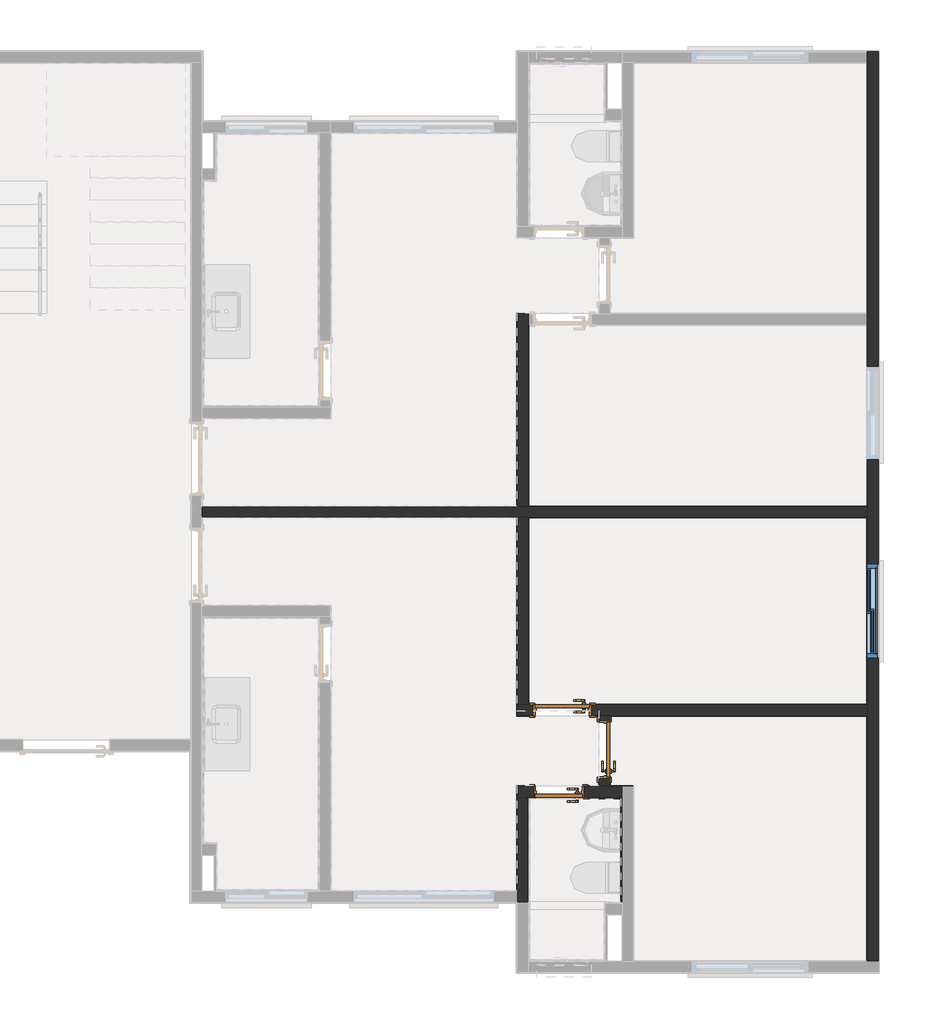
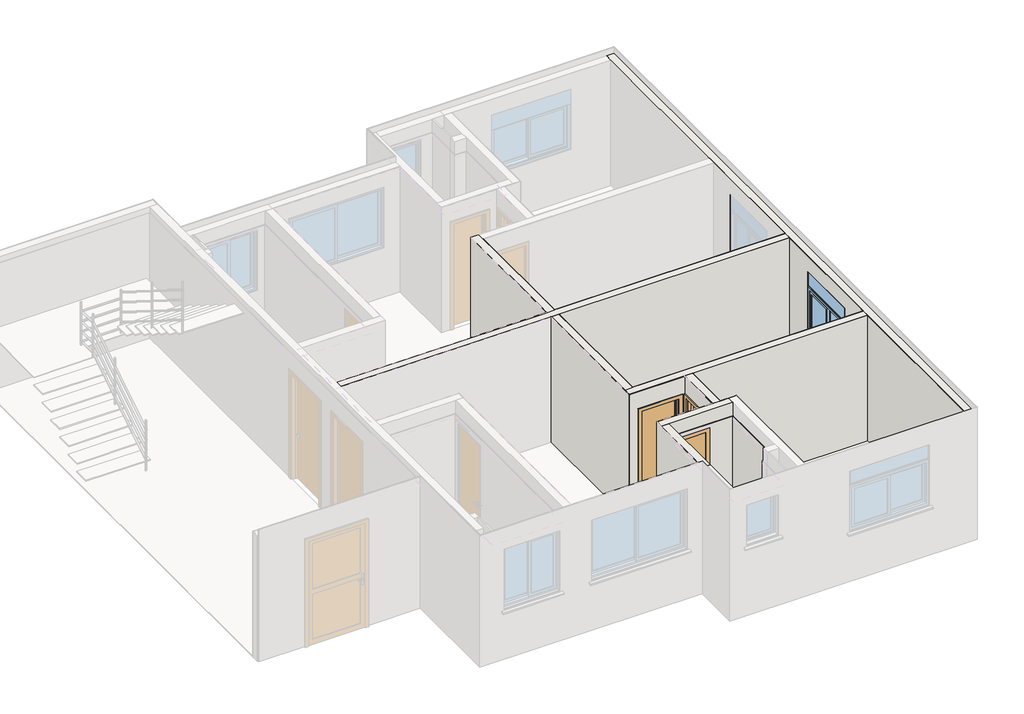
# One storey, part 8 of 11: 26 walls, 3 doors, 1 window.
"""IFC4 building model written with IfcOpenShell, lengths in millimetres."""

from ifc_helpers import new_model, si_unit, frame, origin, origin_with_axes, place, context, project, spatial, polyline, outline, extrude, faceted_brep, transform, mapped, element, save
from components import porta_de_madeira_interna_60_x_210_porta_de_madeira_interna_6d4bee1b, porta_de_madeira_interna_70_x_210_porta_de_madeira_interna_f307109d, window_120x120_8f0dd2b5

model = new_model("IFC4")

# Units and contexts
model_context = context("Model", 3, world=origin())
ifc_project = project(units=[si_unit("LENGTHUNIT", "METRE", prefix="MILLI")], contexts=[model_context])

# Site, building, storey
site = spatial("IfcSite", under=ifc_project)
building = spatial("IfcBuilding", under=site)
storey = spatial("IfcBuildingStorey", under=building, Name="Térreo", Elevation=0.0)

# Doors
placement = place(None, origin())
porta_de_madeira_interna_60_x_210_porta_de_madeira_interna_shape = porta_de_madeira_interna_60_x_210_porta_de_madeira_interna_6d4bee1b(model_context)
element("IfcDoor", 1, ObjectType="Porta de Madeira Interna 60 x 210 : Porta de Madeira Interna 60 x 210", at=placement, inside=storey, context=model_context, shape_type="MappedRepresentation", body=[
    mapped(porta_de_madeira_interna_60_x_210_porta_de_madeira_interna_shape, transform((16681.9956991, 2796.8217615, 0.0), x_axis=(-1.0, 0.0, 0.0), y_axis=(0.0, -1.0, 0.0), z_axis=(0.0, 0.0, 1.0))),
])
porta_de_madeira_interna_70_x_210_porta_de_madeira_interna_shape = porta_de_madeira_interna_70_x_210_porta_de_madeira_interna_f307109d(model_context)
element("IfcDoor", 2, ObjectType="Porta de Madeira Interna 70 x 210 : Porta de Madeira Interna 70 x 210", at=placement, inside=storey, context=model_context, shape_type="MappedRepresentation", body=[
    mapped(porta_de_madeira_interna_70_x_210_porta_de_madeira_interna_shape, transform((17273.1716432, 3342.9958256, 0.0), x_axis=(0.0, 1.0, 0.0), y_axis=(-1.0, 0.0, 0.0), z_axis=(0.0, 0.0, 1.0))),
])
element("IfcDoor", 3, ObjectType="Porta de Madeira Interna 70 x 210 : Porta de Madeira Interna 70 x 210", at=placement, inside=storey, context=model_context, shape_type="MappedRepresentation", body=[
    mapped(porta_de_madeira_interna_70_x_210_porta_de_madeira_interna_shape, transform((16726.9947994, 3853.1701411, 0.0), x_axis=(-1.0, 0.0, 0.0), y_axis=(0.0, -1.0, 0.0), z_axis=(0.0, 0.0, 1.0))),
])

# Walls
element("IfcWall", 4, ObjectType="Alvenaria Estrutural", at=placement, inside=storey, context=model_context, shape_type="Brep", body=[
    faceted_brep([(20649.9955249, 12319.9951043, 0.0), (20649.9955249, 12180.0252435, 0.0), (20649.9955249, 8956.0244803, 0.0), (20649.9955249, 8950.0244803, 0.0), (20649.9955249, 8810.0244803, 0.0), (20649.9955249, 8804.0244803, 0.0), (20649.9955249, 6476.0103139, 0.0), (20649.9955249, 6470.0103139, 0.0), (20649.9955249, 6330.0103139, 0.0), (20649.9955249, 6324.0103139, 0.0), (20649.9955249, 3925.9951411, 0.0), (20649.9955249, 3919.9951411, 0.0), (20649.9955249, 3779.9951411, 0.0), (20649.9955249, 3773.9951411, 0.0), (20649.9955249, 619.9952456, 0.0), (20649.9955249, 619.9952456, 2510.0), (20649.9955249, 3773.9951411, 2510.0), (20649.9955249, 3779.9951411, 2510.0), (20649.9955249, 3919.9951411, 2510.0), (20649.9955249, 3925.9951411, 2510.0), (20649.9955249, 6324.0103139, 2510.0), (20649.9955249, 6330.0103139, 2510.0), (20649.9955249, 6470.0103139, 2510.0), (20649.9955249, 6476.0103139, 2510.0), (20649.9955249, 8804.0244803, 2510.0), (20649.9955249, 8810.0244803, 2510.0), (20649.9955249, 8950.0244803, 2510.0), (20649.9955249, 8956.0244803, 2510.0), (20649.9955249, 12180.0252435, 2510.0), (20649.9955249, 12319.9951043, 2510.0), (20649.9955249, 5725.0101878, 1000.0), (20649.9955249, 5725.0101878, 2200.0), (20649.9955249, 4525.0101878, 2200.0), (20649.9955249, 4525.0101878, 1000.0), (20649.9955249, 7075.01044, 2200.0), (20649.9955249, 7075.01044, 1000.0), (20649.9955249, 8275.01044, 1000.0), (20649.9955249, 8275.01044, 2200.0), (20789.9955249, 619.9952456, 0.0), (20789.9955249, 12319.9951043, 0.0), (20789.9955249, 12319.9951043, 2510.0), (20789.9955249, 619.9952456, 2510.0), (20789.9955249, 5725.0101878, 2200.0), (20789.9955249, 5725.0101878, 1000.0), (20789.9955249, 5775.0101878, 1000.0), (20789.9955249, 5775.0101878, 951.3083694), (20789.9955249, 4475.0101878, 951.3083694), (20789.9955249, 4475.0101878, 1000.0), (20789.9955249, 4525.0101878, 1000.0), (20789.9955249, 4525.0101878, 2200.0), (20789.9955249, 7025.01044, 951.3083694), (20789.9955249, 7025.01044, 1000.0), (20789.9955249, 7075.01044, 1000.0), (20789.9955249, 7075.01044, 2200.0), (20789.9955249, 8275.01044, 2200.0), (20789.9955249, 8275.01044, 1000.0), (20789.9955249, 8325.01044, 1000.0), (20789.9955249, 8325.01044, 951.3083694), (20692.4955249, 5725.0101878, 1000.0), (20692.4955249, 4525.0101878, 1000.0), (20692.4955249, 7075.01044, 1000.0), (20692.4955249, 8275.01044, 1000.0), (20692.4955249, 4475.0101878, 972.0326341), (20692.4955249, 4475.0101878, 1000.0), (20692.4955249, 5775.0101878, 1000.0), (20692.4955249, 5775.0101878, 972.0326341), (20692.4955249, 7025.01044, 972.0326341), (20692.4955249, 7025.01044, 1000.0), (20692.4955249, 8325.01044, 1000.0), (20692.4955249, 8325.01044, 972.0326341)], [[[0, 1, 2, 3, 4, 5, 6, 7, 8, 9, 10, 11, 12, 13, 14, 15, 16, 17, 18, 19, 20, 21, 22, 23, 24, 25, 26, 27, 28, 29], [30, 31, 32, 33], [34, 35, 36, 37]], [[38, 39, 40, 41], [42, 43, 44, 45, 46, 47, 48, 49], [50, 51, 52, 53, 54, 55, 56, 57]], [[31, 30, 58, 43, 42]], [[32, 31, 42, 49]], [[33, 32, 49, 48, 59]], [[30, 33, 59, 58]], [[35, 34, 53, 52, 60]], [[34, 37, 54, 53]], [[37, 36, 61, 55, 54]], [[36, 35, 60, 61]], [[1, 0, 39, 38, 14, 13, 12, 11, 10, 9, 8, 7, 6, 5, 4, 3, 2]], [[15, 14, 38, 41]], [[16, 15, 41, 40, 29, 28, 27, 26, 25, 24, 23, 22, 21, 20, 19, 18, 17]], [[0, 29, 40, 39]], [[47, 46, 62, 63]], [[45, 44, 64, 65]], [[58, 59, 63, 62, 65, 64]], [[48, 47, 63, 59]], [[46, 45, 65, 62]], [[51, 50, 66, 67]], [[57, 56, 68, 69]], [[61, 60, 67, 66, 69, 68]], [[52, 51, 67, 60]], [[50, 57, 69, 66]], [[56, 55, 61, 68]], [[44, 43, 58, 64]]]),
    faceted_brep([(20649.9955249, 4525.0101878, 1000.0), (20649.9955249, 4525.0101878, 2200.0), (20789.9955249, 4525.0101878, 2200.0), (20789.9955249, 4525.0101878, 1000.0), (20692.4955249, 4525.0101878, 1000.0), (20649.9955249, 8275.01044, 2200.0), (20649.9955249, 8275.01044, 1000.0), (20692.4955249, 8275.01044, 1000.0), (20789.9955249, 8275.01044, 1000.0), (20789.9955249, 8275.01044, 2200.0), (20649.9955249, 12180.0252435, 0.0), (20649.9955249, 12319.9951043, 0.0), (20789.9955249, 12319.9951043, 0.0), (20789.9955249, 619.9952456, 0.0), (20649.9955249, 619.9952456, 0.0), (20649.9955249, 3773.9951411, 0.0), (20649.9955249, 3779.9951411, 0.0), (20649.9955249, 3919.9951411, 0.0), (20649.9955249, 3925.9951411, 0.0), (20649.9955249, 6324.0103139, 0.0), (20649.9955249, 6330.0103139, 0.0), (20649.9955249, 6470.0103139, 0.0), (20649.9955249, 6476.0103139, 0.0), (20649.9955249, 8804.0244803, 0.0), (20649.9955249, 8810.0244803, 0.0), (20649.9955249, 8950.0244803, 0.0), (20649.9955249, 8956.0244803, 0.0), (20649.9955249, 619.9952456, 2510.0), (20789.9955249, 619.9952456, 2510.0), (20649.9955249, 12319.9951043, 2510.0), (20789.9955249, 12319.9951043, 2510.0), (20789.9955249, 4475.0101878, 1000.0), (20789.9955249, 4475.0101878, 951.3083694), (20692.4955249, 4475.0101878, 972.0326341), (20692.4955249, 4475.0101878, 1000.0), (20789.9955249, 5775.0101878, 951.3083694), (20789.9955249, 5775.0101878, 1000.0), (20692.4955249, 5775.0101878, 1000.0), (20692.4955249, 5775.0101878, 972.0326341), (20692.4955249, 5725.0101878, 1000.0), (20789.9955249, 7025.01044, 1000.0), (20789.9955249, 7025.01044, 951.3083694), (20692.4955249, 7025.01044, 972.0326341), (20692.4955249, 7025.01044, 1000.0), (20789.9955249, 8325.01044, 951.3083694), (20789.9955249, 8325.01044, 1000.0), (20692.4955249, 8325.01044, 1000.0), (20692.4955249, 8325.01044, 972.0326341), (20692.4955249, 7075.01044, 1000.0), (20789.9955249, 7075.01044, 1000.0), (20649.9955249, 3773.9951411, 2510.0), (20649.9955249, 3779.9951411, 2510.0), (20649.9955249, 3919.9951411, 2510.0), (20649.9955249, 3925.9951411, 2510.0), (20649.9955249, 6324.0103139, 2510.0), (20649.9955249, 6330.0103139, 2510.0), (20649.9955249, 6470.0103139, 2510.0), (20649.9955249, 6476.0103139, 2510.0), (20649.9955249, 8804.0244803, 2510.0), (20649.9955249, 8810.0244803, 2510.0), (20649.9955249, 8950.0244803, 2510.0), (20649.9955249, 8956.0244803, 2510.0), (20649.9955249, 12180.0252435, 2510.0), (20649.9955249, 5725.0101878, 1000.0), (20649.9955249, 5725.0101878, 2200.0), (20649.9955249, 7075.01044, 2200.0), (20649.9955249, 7075.01044, 1000.0), (20789.9955249, 7075.01044, 2200.0), (20789.9955249, 5725.0101878, 2200.0), (20789.9955249, 5725.0101878, 1000.0)], [[[0, 1, 2, 3, 4]], [[5, 6, 7, 8, 9]], [[10, 11, 12, 13, 14, 15, 16, 17, 18, 19, 20, 21, 22, 23, 24, 25, 26]], [[27, 14, 13, 28]], [[11, 29, 30, 12]], [[31, 32, 33, 34]], [[35, 36, 37, 38]], [[39, 4, 34, 33, 38, 37]], [[3, 31, 34, 4]], [[32, 35, 38, 33]], [[40, 41, 42, 43]], [[44, 45, 46, 47]], [[7, 48, 43, 42, 47, 46]], [[49, 40, 43, 48]], [[41, 44, 47, 42]], [[11, 10, 26, 25, 24, 23, 22, 21, 20, 19, 18, 17, 16, 15, 14, 27, 50, 51, 52, 53, 54, 55, 56, 57, 58, 59, 60, 61, 62, 29], [63, 64, 1, 0], [65, 66, 6, 5]], [[13, 12, 30, 28], [41, 40, 49, 67, 9, 8, 45, 44], [68, 69, 36, 35, 32, 31, 3, 2]], [[64, 63, 39, 69, 68]], [[1, 64, 68, 2]], [[63, 0, 4, 39]], [[66, 65, 67, 49, 48]], [[65, 5, 9, 67]], [[6, 66, 48, 7]], [[45, 8, 7, 46]], [[36, 69, 39, 37]], [[50, 27, 28, 30, 29, 62, 61, 60, 59, 58, 57, 56, 55, 54, 53, 52, 51]]]),
])
element("IfcWall", 5, ObjectType="Alvenaria Estrutural", at=placement, inside=storey, context=model_context, shape_type="Brep", body=[
    faceted_brep([(16149.9950207, 3919.9951411, 2510.0), (16289.9950207, 3919.9951411, 2510.0), (16295.9950207, 3919.9951411, 2510.0), (20643.9955249, 3919.9951411, 2510.0), (20649.9955249, 3919.9951411, 2510.0), (20649.9955249, 3919.9951411, 0.0), (20643.9955249, 3919.9951411, 0.0), (17101.9947994, 3919.9951411, 0.0), (17101.9947994, 3919.9951411, 2125.0), (16351.9947994, 3919.9951411, 2125.0), (16351.9947994, 3919.9951411, 0.0), (16295.9950207, 3919.9951411, 0.0), (16289.9950207, 3919.9951411, 0.0), (16149.9950207, 3919.9951411, 0.0), (20649.9955249, 3779.9951411, 2510.0), (20643.9955249, 3779.9951411, 2510.0), (17345.9966432, 3779.9951411, 2510.0), (17339.9966432, 3779.9951411, 2510.0), (17199.9966432, 3779.9951411, 2510.0), (17193.9966432, 3779.9951411, 2510.0), (16149.9950207, 3779.9951411, 2510.0), (16149.9950207, 3779.9951411, 0.0), (16351.9947994, 3779.9951411, 0.0), (16351.9947994, 3779.9951411, 2125.0), (17101.9947994, 3779.9951411, 2125.0), (17101.9947994, 3779.9951411, 0.0), (17193.9966432, 3779.9951411, 0.0), (17199.9966432, 3779.9951411, 0.0), (17339.9966432, 3779.9951411, 0.0), (17345.9966432, 3779.9951411, 0.0), (20643.9955249, 3779.9951411, 0.0), (20649.9955249, 3779.9951411, 0.0)], [[[0, 1, 2, 3, 4, 5, 6, 7, 8, 9, 10, 11, 12, 13]], [[14, 15, 16, 17, 18, 19, 20, 21, 22, 23, 24, 25, 26, 27, 28, 29, 30, 31]], [[6, 5, 31, 30, 29, 28, 27, 26, 25, 7]], [[1, 0, 20, 19, 18, 17, 16, 15, 14, 4, 3, 2]], [[10, 9, 23, 22]], [[9, 8, 24, 23]], [[8, 7, 25, 24]], [[0, 13, 21, 20]], [[5, 4, 14, 31]], [[11, 10, 22, 21, 13, 12]]]),
    faceted_brep([(20643.9955249, 3919.9951411, 0.0), (20649.9955249, 3919.9951411, 0.0), (20649.9955249, 3779.9951411, 0.0), (20643.9955249, 3779.9951411, 0.0), (17345.9966432, 3779.9951411, 0.0), (17339.9966432, 3779.9951411, 0.0), (17199.9966432, 3779.9951411, 0.0), (17193.9966432, 3779.9951411, 0.0), (17101.9947994, 3779.9951411, 0.0), (17101.9947994, 3919.9951411, 0.0), (16289.9950207, 3919.9951411, 2510.0), (16149.9950207, 3919.9951411, 2510.0), (16149.9950207, 3779.9951411, 2510.0), (17193.9966432, 3779.9951411, 2510.0), (17199.9966432, 3779.9951411, 2510.0), (17339.9966432, 3779.9951411, 2510.0), (17345.9966432, 3779.9951411, 2510.0), (20643.9955249, 3779.9951411, 2510.0), (20649.9955249, 3779.9951411, 2510.0), (20649.9955249, 3919.9951411, 2510.0), (20643.9955249, 3919.9951411, 2510.0), (16295.9950207, 3919.9951411, 2510.0), (16351.9947994, 3919.9951411, 0.0), (16351.9947994, 3919.9951411, 2125.0), (16351.9947994, 3779.9951411, 2125.0), (16351.9947994, 3779.9951411, 0.0), (17101.9947994, 3919.9951411, 2125.0), (17101.9947994, 3779.9951411, 2125.0), (16295.9950207, 3919.9951411, 0.0), (16149.9950207, 3779.9951411, 0.0), (16149.9950207, 3919.9951411, 0.0), (16289.9950207, 3919.9951411, 0.0)], [[[0, 1, 2, 3, 4, 5, 6, 7, 8, 9]], [[10, 11, 12, 13, 14, 15, 16, 17, 18, 19, 20, 21]], [[22, 23, 24, 25]], [[23, 26, 27, 24]], [[26, 9, 8, 27]], [[28, 22, 25, 29, 30, 31]], [[18, 17, 16, 15, 14, 13, 12, 29, 25, 24, 27, 8, 7, 6, 5, 4, 3, 2]], [[11, 10, 21, 20, 19, 1, 0, 9, 26, 23, 22, 28, 31, 30]], [[11, 30, 29, 12]], [[1, 19, 18, 2]]]),
])
element("IfcWall", 6, ObjectType="Alvenaria Estrutural", at=placement, inside=storey, context=model_context, shape_type="Brep", body=[
    faceted_brep([(20649.9955249, 6470.0103139, 0.0), (20643.9955249, 6470.0103139, 0.0), (16295.9950207, 6470.0103139, 0.0), (16289.9950207, 6470.0103139, 0.0), (16149.9950207, 6470.0103139, 0.0), (16143.9950207, 6470.0103139, 0.0), (12095.9984066, 6470.0103139, 0.0), (12089.9984066, 6470.0103139, 0.0), (12089.9984066, 6470.0103139, 2510.0), (12095.9984066, 6470.0103139, 2510.0), (16143.9950207, 6470.0103139, 2510.0), (16149.9950207, 6470.0103139, 2510.0), (16289.9950207, 6470.0103139, 2510.0), (16295.9950207, 6470.0103139, 2510.0), (20643.9955249, 6470.0103139, 2510.0), (20649.9955249, 6470.0103139, 2510.0), (20649.9955249, 6330.0103139, 0.0), (20649.9955249, 6330.0103139, 2510.0), (20643.9955249, 6330.0103139, 2510.0), (16295.9950207, 6330.0103139, 2510.0), (16289.9950207, 6330.0103139, 2510.0), (16149.9950207, 6330.0103139, 2510.0), (16143.9950207, 6330.0103139, 2510.0), (12095.9984066, 6330.0103139, 2510.0), (12089.9984066, 6330.0103139, 2510.0), (12089.9984066, 6330.0103139, 0.0), (12095.9984066, 6330.0103139, 0.0), (16143.9950207, 6330.0103139, 0.0), (16149.9950207, 6330.0103139, 0.0), (16289.9950207, 6330.0103139, 0.0), (16295.9950207, 6330.0103139, 0.0), (20643.9955249, 6330.0103139, 0.0)], [[[0, 1, 2, 3, 4, 5, 6, 7, 8, 9, 10, 11, 12, 13, 14, 15]], [[16, 17, 18, 19, 20, 21, 22, 23, 24, 25, 26, 27, 28, 29, 30, 31]], [[1, 0, 16, 31, 30, 29, 28, 27, 26, 25, 7, 6, 5, 4, 3, 2]], [[9, 8, 24, 23, 22, 21, 20, 19, 18, 17, 15, 14, 13, 12, 11, 10]], [[8, 7, 25, 24]], [[0, 15, 17, 16]]]),
    faceted_brep([(20643.9955249, 6470.0103139, 0.0), (20649.9955249, 6470.0103139, 0.0), (20649.9955249, 6330.0103139, 0.0), (20643.9955249, 6330.0103139, 0.0), (16295.9950207, 6330.0103139, 0.0), (16289.9950207, 6330.0103139, 0.0), (16149.9950207, 6330.0103139, 0.0), (16143.9950207, 6330.0103139, 0.0), (12095.9984066, 6330.0103139, 0.0), (12089.9984066, 6330.0103139, 0.0), (12089.9984066, 6470.0103139, 0.0), (12095.9984066, 6470.0103139, 0.0), (16143.9950207, 6470.0103139, 0.0), (16149.9950207, 6470.0103139, 0.0), (16289.9950207, 6470.0103139, 0.0), (16295.9950207, 6470.0103139, 0.0), (20649.9955249, 6330.0103139, 2510.0), (20643.9955249, 6330.0103139, 2510.0), (16295.9950207, 6330.0103139, 2510.0), (16289.9950207, 6330.0103139, 2510.0), (16149.9950207, 6330.0103139, 2510.0), (16143.9950207, 6330.0103139, 2510.0), (12095.9984066, 6330.0103139, 2510.0), (12089.9984066, 6330.0103139, 2510.0), (12089.9984066, 6470.0103139, 2510.0), (12095.9984066, 6470.0103139, 2510.0), (16143.9950207, 6470.0103139, 2510.0), (16149.9950207, 6470.0103139, 2510.0), (16289.9950207, 6470.0103139, 2510.0), (16295.9950207, 6470.0103139, 2510.0), (20643.9955249, 6470.0103139, 2510.0), (20649.9955249, 6470.0103139, 2510.0)], [[[0, 1, 2, 3, 4, 5, 6, 7, 8, 9, 10, 11, 12, 13, 14, 15]], [[2, 16, 17, 18, 19, 20, 21, 22, 23, 9, 8, 7, 6, 5, 4, 3]], [[1, 0, 15, 14, 13, 12, 11, 10, 24, 25, 26, 27, 28, 29, 30, 31]], [[25, 24, 23, 22, 21, 20, 19, 18, 17, 16, 31, 30, 29, 28, 27, 26]], [[24, 10, 9, 23]], [[1, 31, 16, 2]]]),
])
element("IfcWall", 7, ObjectType="Alvenaria Estrutural", at=placement, inside=storey, context=model_context, shape_type="Brep", body=[
    faceted_brep([(16149.9950207, 6330.0103139, 0.0), (16149.9950207, 6324.0103139, 0.0), (16149.9950207, 3919.9951411, 0.0), (16149.9950207, 3919.9951411, 2510.0), (16149.9950207, 6324.0103139, 2510.0), (16149.9950207, 6330.0103139, 2510.0), (16289.9950207, 6330.0103139, 0.0), (16289.9950207, 6330.0103139, 2510.0), (16289.9950207, 6324.0103139, 2510.0), (16289.9950207, 3925.9951411, 2510.0), (16289.9950207, 3919.9951411, 2510.0), (16289.9950207, 3919.9951411, 0.0), (16289.9950207, 3925.9951411, 0.0), (16289.9950207, 6324.0103139, 0.0)], [[[0, 1, 2, 3, 4, 5]], [[6, 7, 8, 9, 10, 11, 12, 13]], [[1, 0, 6, 13, 12, 11, 2]], [[4, 3, 10, 9, 8, 7, 5]], [[0, 5, 7, 6]], [[3, 2, 11, 10]]]),
    faceted_brep([(16149.9950207, 6324.0103139, 0.0), (16149.9950207, 6330.0103139, 0.0), (16289.9950207, 6330.0103139, 0.0), (16289.9950207, 6324.0103139, 0.0), (16289.9950207, 3925.9951411, 0.0), (16289.9950207, 3919.9951411, 0.0), (16149.9950207, 3919.9951411, 0.0), (16149.9950207, 6324.0103139, 2510.0), (16149.9950207, 3919.9951411, 2510.0), (16289.9950207, 3919.9951411, 2510.0), (16289.9950207, 3925.9951411, 2510.0), (16289.9950207, 6324.0103139, 2510.0), (16289.9950207, 6330.0103139, 2510.0), (16149.9950207, 6330.0103139, 2510.0)], [[[0, 1, 2, 3, 4, 5, 6]], [[7, 8, 9, 10, 11, 12, 13]], [[2, 12, 11, 10, 9, 5, 4, 3]], [[1, 0, 6, 8, 7, 13]], [[1, 13, 12, 2]], [[8, 6, 5, 9]]]),
])
element("IfcWall", 8, ObjectType="Alvenaria Estrutural", at=placement, inside=storey, context=model_context, shape_type="Brep", body=[
    faceted_brep([(17199.9966432, 2869.9967615, 2510.0), (17199.9966432, 2875.9967615, 2510.0), (17199.9966432, 3773.9951411, 2510.0), (17199.9966432, 3779.9951411, 2510.0), (17199.9966432, 3779.9951411, 0.0), (17199.9966432, 3773.9951411, 0.0), (17199.9966432, 3717.9958256, 0.0), (17199.9966432, 3717.9958256, 2125.0), (17199.9966432, 2967.9958256, 2125.0), (17199.9966432, 2967.9958256, 0.0), (17199.9966432, 2875.9967615, 0.0), (17199.9966432, 2869.9967615, 0.0), (17339.9966432, 3779.9951411, 2510.0), (17339.9966432, 2875.9967615, 2510.0), (17339.9966432, 2869.9967615, 2510.0), (17339.9966432, 2869.9967615, 0.0), (17339.9966432, 2875.9967615, 0.0), (17339.9966432, 2967.9958256, 0.0), (17339.9966432, 2967.9958256, 2125.0), (17339.9966432, 3717.9958256, 2125.0), (17339.9966432, 3717.9958256, 0.0), (17339.9966432, 3779.9951411, 0.0)], [[[0, 1, 2, 3, 4, 5, 6, 7, 8, 9, 10, 11]], [[12, 13, 14, 15, 16, 17, 18, 19, 20, 21]], [[5, 4, 21, 20, 6]], [[1, 0, 14, 13, 12, 3, 2]], [[7, 6, 20, 19]], [[8, 7, 19, 18]], [[9, 8, 18, 17]], [[0, 11, 15, 14]], [[4, 3, 12, 21]], [[10, 9, 17, 16, 15, 11]]]),
    faceted_brep([(17199.9966432, 2875.9967615, 2510.0), (17199.9966432, 2869.9967615, 2510.0), (17339.9966432, 2869.9967615, 2510.0), (17339.9966432, 2875.9967615, 2510.0), (17339.9966432, 3779.9951411, 2510.0), (17199.9966432, 3779.9951411, 2510.0), (17199.9966432, 3773.9951411, 2510.0), (17199.9966432, 3717.9958256, 2125.0), (17199.9966432, 3717.9958256, 0.0), (17339.9966432, 3717.9958256, 0.0), (17339.9966432, 3717.9958256, 2125.0), (17199.9966432, 2967.9958256, 2125.0), (17339.9966432, 2967.9958256, 2125.0), (17199.9966432, 2967.9958256, 0.0), (17339.9966432, 2967.9958256, 0.0), (17339.9966432, 2869.9967615, 0.0), (17339.9966432, 2875.9967615, 0.0), (17339.9966432, 3779.9951411, 0.0), (17199.9966432, 3779.9951411, 0.0), (17199.9966432, 3773.9951411, 0.0), (17199.9966432, 2875.9967615, 0.0), (17199.9966432, 2869.9967615, 0.0)], [[[0, 1, 2, 3, 4, 5, 6]], [[7, 8, 9, 10]], [[11, 7, 10, 12]], [[13, 11, 12, 14]], [[4, 3, 2, 15, 16, 14, 12, 10, 9, 17]], [[1, 0, 6, 5, 18, 19, 8, 7, 11, 13, 20, 21]], [[19, 18, 17, 9, 8]], [[1, 21, 15, 2]], [[18, 5, 4, 17]], [[20, 13, 14, 16, 15, 21]]]),
])
element("IfcWall", 9, ObjectType="Alvenaria Estrutural", at=placement, inside=storey, context=model_context, shape_type="Brep", body=[
    faceted_brep([(16149.9956991, 2869.9967615, 2510.0), (17193.9966432, 2869.9967615, 2510.0), (17199.9966432, 2869.9967615, 2510.0), (17339.9966432, 2869.9967615, 2510.0), (17499.9970535, 2869.9967615, 2510.0), (17499.9970535, 2869.9967615, 0.0), (17339.9966432, 2869.9967615, 0.0), (17199.9966432, 2869.9967615, 0.0), (17193.9966432, 2869.9967615, 0.0), (17006.9956991, 2869.9967615, 0.0), (17006.9956991, 2869.9967615, 2125.0), (16356.9956991, 2869.9967615, 2125.0), (16356.9956991, 2869.9967615, 0.0), (16149.9956991, 2869.9967615, 0.0), (17499.9970535, 2729.9967615, 2510.0), (16289.9956991, 2729.9967615, 2510.0), (16149.9956991, 2729.9967615, 2510.0), (16149.9956991, 2729.9967615, 0.0), (16289.9956991, 2729.9967615, 0.0), (16356.9956991, 2729.9967615, 0.0), (16356.9956991, 2729.9967615, 2125.0), (17006.9956991, 2729.9967615, 2125.0), (17006.9956991, 2729.9967615, 0.0), (17499.9970535, 2729.9967615, 0.0)], [[[0, 1, 2, 3, 4, 5, 6, 7, 8, 9, 10, 11, 12, 13]], [[14, 15, 16, 17, 18, 19, 20, 21, 22, 23]], [[6, 5, 23, 22, 9, 8, 7]], [[1, 0, 16, 15, 14, 4, 3, 2]], [[12, 11, 20, 19]], [[11, 10, 21, 20]], [[10, 9, 22, 21]], [[0, 13, 17, 16]], [[5, 4, 14, 23]], [[13, 12, 19, 18, 17]]]),
    faceted_brep([(17339.9966432, 2869.9967615, 0.0), (17499.9970535, 2869.9967615, 0.0), (17499.9970535, 2729.9967615, 0.0), (17006.9956991, 2729.9967615, 0.0), (17006.9956991, 2869.9967615, 0.0), (17193.9966432, 2869.9967615, 0.0), (17199.9966432, 2869.9967615, 0.0), (17193.9966432, 2869.9967615, 2510.0), (16149.9956991, 2869.9967615, 2510.0), (16149.9956991, 2729.9967615, 2510.0), (16289.9956991, 2729.9967615, 2510.0), (17499.9970535, 2729.9967615, 2510.0), (17499.9970535, 2869.9967615, 2510.0), (17339.9966432, 2869.9967615, 2510.0), (17199.9966432, 2869.9967615, 2510.0), (16356.9956991, 2869.9967615, 0.0), (16356.9956991, 2869.9967615, 2125.0), (16356.9956991, 2729.9967615, 2125.0), (16356.9956991, 2729.9967615, 0.0), (17006.9956991, 2869.9967615, 2125.0), (17006.9956991, 2729.9967615, 2125.0), (16149.9956991, 2869.9967615, 0.0), (16289.9956991, 2729.9967615, 0.0), (16149.9956991, 2729.9967615, 0.0)], [[[0, 1, 2, 3, 4, 5, 6]], [[7, 8, 9, 10, 11, 12, 13, 14]], [[15, 16, 17, 18]], [[16, 19, 20, 17]], [[19, 4, 3, 20]], [[21, 15, 18, 22, 23]], [[11, 10, 9, 23, 22, 18, 17, 20, 3, 2]], [[8, 7, 14, 13, 12, 1, 0, 6, 5, 4, 19, 16, 15, 21]], [[8, 21, 23, 9]], [[1, 12, 11, 2]]]),
])
element("IfcWall", 10, ObjectType="Alvenaria Estrutural", at=placement, inside=storey, context=model_context, shape_type="Brep", body=[
    faceted_brep([(16289.9956991, 1374.9970972, 0.0), (16289.9956991, 2709.9967615, 0.0), (16289.9956991, 2729.9967615, 0.0), (16289.9956991, 2729.9967615, 2250.0), (16289.9956991, 2729.9967615, 2510.0), (16289.9956991, 1374.9970972, 2510.0), (16149.9956991, 1374.9970972, 0.0), (16149.9956991, 1374.9970972, 2510.0), (16149.9956991, 1519.9983274, 2510.0), (16149.9956991, 1525.9983274, 2510.0), (16149.9956991, 2729.9967615, 2510.0), (16149.9956991, 2729.9967615, 0.0), (16149.9956991, 1525.9983274, 0.0), (16149.9956991, 1519.9983274, 0.0)], [[[0, 1, 2, 3, 4, 5]], [[6, 7, 8, 9, 10, 11, 12, 13]], [[1, 0, 6, 13, 12, 11, 2]], [[5, 4, 10, 9, 8, 7]], [[0, 5, 7, 6]], [[3, 2, 11, 10, 4]]]),
    faceted_brep([(16289.9956991, 2709.9967615, 0.0), (16289.9956991, 1374.9970972, 0.0), (16149.9956991, 1374.9970972, 0.0), (16149.9956991, 1519.9983274, 0.0), (16149.9956991, 1525.9983274, 0.0), (16149.9956991, 2729.9967615, 0.0), (16289.9956991, 2729.9967615, 0.0), (16289.9956991, 1374.9970972, 2510.0), (16289.9956991, 2729.9967615, 2510.0), (16149.9956991, 2729.9967615, 2510.0), (16149.9956991, 1525.9983274, 2510.0), (16149.9956991, 1519.9983274, 2510.0), (16149.9956991, 1374.9970972, 2510.0), (16289.9956991, 2729.9967615, 2250.0)], [[[0, 1, 2, 3, 4, 5, 6]], [[7, 8, 9, 10, 11, 12]], [[1, 7, 12, 2]], [[1, 0, 6, 13, 8, 7]], [[2, 12, 11, 10, 9, 5, 4, 3]], [[13, 6, 5, 9, 8]]]),
])
element("IfcWall", 11, ObjectType="Alvenaria Estrutural", at=placement, inside=storey, context=model_context, shape_type="Brep", body=[
    faceted_brep([(16289.9950207, 6470.0103139, 0.0), (16289.9950207, 6476.0103139, 0.0), (16289.9950207, 8804.0244803, 0.0), (16289.9950207, 8810.0244803, 0.0), (16289.9950207, 8950.0244803, 0.0), (16289.9950207, 8950.0244803, 2510.0), (16289.9950207, 8810.0244803, 2510.0), (16289.9950207, 8804.0244803, 2510.0), (16289.9950207, 6476.0103139, 2510.0), (16289.9950207, 6470.0103139, 2510.0), (16149.9950207, 6470.0103139, 0.0), (16149.9950207, 6470.0103139, 2510.0), (16149.9950207, 6476.0103139, 2510.0), (16149.9950207, 8950.0244803, 2510.0), (16149.9950207, 8950.0244803, 0.0), (16149.9950207, 6476.0103139, 0.0)], [[[0, 1, 2, 3, 4, 5, 6, 7, 8, 9]], [[10, 11, 12, 13, 14, 15]], [[1, 0, 10, 15, 14, 4, 3, 2]], [[6, 5, 13, 12, 11, 9, 8, 7]], [[5, 4, 14, 13]], [[0, 9, 11, 10]]]),
    faceted_brep([(16289.9950207, 6476.0103139, 0.0), (16289.9950207, 6470.0103139, 0.0), (16149.9950207, 6470.0103139, 0.0), (16149.9950207, 6476.0103139, 0.0), (16149.9950207, 8950.0244803, 0.0), (16289.9950207, 8950.0244803, 0.0), (16289.9950207, 8810.0244803, 0.0), (16289.9950207, 8804.0244803, 0.0), (16289.9950207, 8810.0244803, 2510.0), (16289.9950207, 8950.0244803, 2510.0), (16149.9950207, 8950.0244803, 2510.0), (16149.9950207, 6476.0103139, 2510.0), (16149.9950207, 6470.0103139, 2510.0), (16289.9950207, 6470.0103139, 2510.0), (16289.9950207, 6476.0103139, 2510.0), (16289.9950207, 8804.0244803, 2510.0)], [[[0, 1, 2, 3, 4, 5, 6, 7]], [[8, 9, 10, 11, 12, 13, 14, 15]], [[1, 0, 7, 6, 5, 9, 8, 15, 14, 13]], [[2, 12, 11, 10, 4, 3]], [[9, 5, 4, 10]], [[1, 13, 12, 2]]]),
])
element("IfcWall", 12, ObjectType="Azulejo", at=placement, inside=storey, context=model_context, shape_type="SolidModel", body=[
    faceted_brep([(17479.9970535, 2709.9967615, 0.0), (17006.9956991, 2709.9967615, 0.0), (17006.9956991, 2719.9967615, 0.0), (17489.9970535, 2719.9967615, 0.0), (17489.9970535, 2709.9967615, 0.0), (16309.9956991, 2709.9967615, 2250.0), (17479.9970535, 2709.9967615, 2250.0), (17489.9970535, 2709.9967615, 2250.0), (17489.9970535, 2719.9967615, 2250.0), (16299.9956991, 2719.9967615, 2250.0), (16299.9956991, 2709.9967615, 2250.0), (16356.9956991, 2709.9967615, 2125.0), (16356.9956991, 2709.9967615, 0.0), (16356.9956991, 2719.9967615, 0.0), (16356.9956991, 2719.9967615, 2125.0), (17006.9956991, 2719.9967615, 2125.0), (17006.9956991, 2709.9967615, 2125.0), (16309.9956991, 2709.9967615, 0.0), (16299.9956991, 2709.9967615, 0.0), (16299.9956991, 2719.9967615, 0.0)], [[[0, 1, 2, 3, 4]], [[5, 6, 7, 8, 9, 10]], [[11, 12, 13, 14]], [[11, 14, 15, 16]], [[2, 1, 16, 15]], [[13, 12, 17, 18, 19]], [[14, 13, 19, 9, 8, 3, 2, 15]], [[1, 0, 4, 7, 6, 5, 10, 18, 17, 12, 11, 16]], [[4, 3, 8, 7]], [[10, 9, 19, 18]]]),
    extrude(outline(polyline([(0.0, 17006.9956991), (0.0, 17499.9970535), (2250.0, 17499.9970535), (2250.0, 16289.9956991), (0.0, 16289.9956991), (0.0, 16356.9956991), (2125.0, 16356.9956991), (2125.0, 17006.9956991), (0.0, 17006.9956991)])), frame((0.0, 2719.9967615, 0.0), z_axis=(0.0, 1.0, 0.0), x_axis=(0.0, 0.0, 1.0)), (0.0, 0.0, 1.0), 10.0),
])
element("IfcWall", 13, ObjectType="Azulejo", at=placement, inside=storey, context=model_context, shape_type="SweptSolid", body=[
    extrude(outline(polyline([(17479.9970535, 1379.9970972), (17479.9970535, 2709.9967615), (17489.9970535, 2709.9967615), (17489.9970535, 1379.9970972), (17479.9970535, 1379.9970972)])), origin_with_axes(), (0.0, 0.0, 1.0), 2250.0),
    extrude(outline(polyline([(17499.9970535, 2719.9967615), (17499.9970535, 1369.9970972), (17489.9970535, 1369.9970972), (17489.9970535, 2719.9967615), (17499.9970535, 2719.9967615)])), origin_with_axes(), (0.0, 0.0, 1.0), 2250.0),
])
element("IfcWall", 14, ObjectType="Gesso Liso + Pintura", at=placement, inside=storey, context=model_context, shape_type="SweptSolid", body=[
    extrude(outline(polyline([(16295.9950207, 8810.0244803), (16295.9950207, 6470.0103139), (16294.9950207, 6470.0103139), (16294.9950207, 8810.0244803), (16295.9950207, 8810.0244803)])), origin_with_axes(), (0.0, 0.0, 1.0), 2510.0),
    extrude(outline(polyline([(16289.9950207, 6470.0103139), (16289.9950207, 8810.0244803), (16294.9950207, 8810.0244803), (16294.9950207, 6470.0103139), (16289.9950207, 6470.0103139)])), origin_with_axes(), (0.0, 0.0, 1.0), 2510.0),
])
element("IfcWall", 15, ObjectType="Gesso Liso + Pintura", at=placement, inside=storey, context=model_context, shape_type="SweptSolid", body=[
    extrude(outline(polyline([(16289.9950207, 6476.0103139), (20649.9955249, 6476.0103139), (20649.9955249, 6475.0103139), (16289.9950207, 6475.0103139), (16289.9950207, 6476.0103139)])), origin_with_axes(), (0.0, 0.0, 1.0), 2510.0),
    extrude(outline(polyline([(20649.9955249, 6470.0103139), (16289.9950207, 6470.0103139), (16289.9950207, 6475.0103139), (20649.9955249, 6475.0103139), (20649.9955249, 6470.0103139)])), origin_with_axes(), (0.0, 0.0, 1.0), 2510.0),
])
element("IfcWall", 16, ObjectType="Gesso Liso + Pintura", at=placement, inside=storey, context=model_context, shape_type="SweptSolid", body=[
    extrude(outline(polyline([(6330.0103139, 0.0), (3919.9951411, 0.0), (3919.9951411, 2510.0), (6330.0103139, 2510.0), (6330.0103139, 0.0)]), holes=[polyline([(5725.0101878, 1000.0), (5725.0101878, 2200.0), (4525.0101878, 2200.0), (4525.0101878, 1000.0), (5725.0101878, 1000.0)])]), frame((20643.9955249, 0.0, 0.0), z_axis=(1.0, 0.0, 0.0), x_axis=(0.0, 1.0, 0.0)), (0.0, 0.0, 1.0), 1.0),
    extrude(outline(polyline([(6330.0103139, 0.0), (3919.9951411, 0.0), (3919.9951411, 2510.0), (6330.0103139, 2510.0), (6330.0103139, 0.0)]), holes=[polyline([(5725.0101878, 1000.0), (5725.0101878, 2200.0), (4525.0101878, 2200.0), (4525.0101878, 1000.0), (5725.0101878, 1000.0)])]), frame((20644.9955249, 0.0, 0.0), z_axis=(1.0, 0.0, 0.0), x_axis=(0.0, 1.0, 0.0)), (0.0, 0.0, 1.0), 5.0),
])
element("IfcWall", 17, ObjectType="Gesso Liso + Pintura", at=placement, inside=storey, context=model_context, shape_type="SweptSolid", body=[
    extrude(outline(polyline([(0.0, 17101.9947994), (0.0, 20649.9955249), (2510.0, 20649.9955249), (2510.0, 16289.9950207), (0.0, 16289.9950207), (0.0, 16351.9947994), (2125.0, 16351.9947994), (2125.0, 17101.9947994), (0.0, 17101.9947994)])), frame((0.0, 3924.9951411, 0.0), z_axis=(0.0, 1.0, 0.0), x_axis=(0.0, 0.0, 1.0)), (0.0, 0.0, 1.0), 1.0),
    extrude(outline(polyline([(2510.0, 20649.9955249), (2510.0, 16289.9950207), (0.0, 16289.9950207), (0.0, 16351.9947994), (2125.0, 16351.9947994), (2125.0, 17101.9947994), (0.0, 17101.9947994), (0.0, 20649.9955249), (2510.0, 20649.9955249)])), frame((0.0, 3919.9951411, 0.0), z_axis=(0.0, 1.0, 0.0), x_axis=(0.0, 0.0, 1.0)), (0.0, 0.0, 1.0), 5.0),
])
element("IfcWall", 18, ObjectType="Gesso Liso + Pintura", at=placement, inside=storey, context=model_context, shape_type="SweptSolid", body=[
    extrude(outline(polyline([(16295.9950207, 6330.0103139), (16295.9950207, 3919.9951411), (16294.9950207, 3919.9951411), (16294.9950207, 6330.0103139), (16295.9950207, 6330.0103139)])), origin_with_axes(), (0.0, 0.0, 1.0), 2510.0),
    extrude(outline(polyline([(16289.9950207, 3919.9951411), (16289.9950207, 6330.0103139), (16294.9950207, 6330.0103139), (16294.9950207, 3919.9951411), (16289.9950207, 3919.9951411)])), origin_with_axes(), (0.0, 0.0, 1.0), 2510.0),
])
element("IfcWall", 19, ObjectType="Gesso Liso + Pintura", at=placement, inside=storey, context=model_context, shape_type="SweptSolid", body=[
    extrude(outline(polyline([(20649.9955249, 6324.0103139), (16289.9950207, 6324.0103139), (16289.9950207, 6325.0103139), (20649.9955249, 6325.0103139), (20649.9955249, 6324.0103139)])), origin_with_axes(), (0.0, 0.0, 1.0), 2510.0),
    extrude(outline(polyline([(16289.9950207, 6330.0103139), (20649.9955249, 6330.0103139), (20649.9955249, 6325.0103139), (16289.9950207, 6325.0103139), (16289.9950207, 6330.0103139)])), origin_with_axes(), (0.0, 0.0, 1.0), 2510.0),
])
element("IfcWall", 20, ObjectType="Gesso Liso + Pintura", at=placement, inside=storey, context=model_context, shape_type="SolidModel", body=[
    faceted_brep([(20643.9955249, 625.9952456, 0.0), (20643.9955249, 3779.9951411, 0.0), (20644.9955249, 3779.9951411, 0.0), (20644.9955249, 624.9952456, 0.0), (20643.9955249, 624.9952456, 0.0), (20644.9955249, 3779.9951411, 2510.0), (20643.9955249, 3779.9951411, 2510.0), (20643.9955249, 625.9952456, 2510.0), (20643.9955249, 624.9952456, 2510.0), (20644.9955249, 624.9952456, 2510.0)], [[[0, 1, 2, 3, 4]], [[5, 6, 7, 8, 9]], [[2, 1, 6, 5]], [[2, 5, 9, 3]], [[1, 0, 4, 8, 7, 6]], [[4, 3, 9, 8]]]),
    extrude(outline(polyline([(20649.9955249, 3779.9951411), (20649.9955249, 619.9952456), (20644.9955249, 619.9952456), (20644.9955249, 3779.9951411), (20649.9955249, 3779.9951411)])), origin_with_axes(), (0.0, 0.0, 1.0), 2510.0),
])
element("IfcWall", 21, ObjectType="Gesso Liso + Pintura", at=placement, inside=storey, context=model_context, shape_type="SolidModel", body=[
    faceted_brep([(17345.9966432, 2875.9967615, 0.0), (17644.9970535, 2875.9967615, 0.0), (17644.9970535, 2874.9967615, 0.0), (17344.9966432, 2874.9967615, 0.0), (17344.9966432, 2875.9967615, 0.0), (17644.9970535, 2875.9967615, 2510.0), (17345.9966432, 2875.9967615, 2510.0), (17344.9966432, 2875.9967615, 2510.0), (17344.9966432, 2874.9967615, 2510.0), (17644.9970535, 2874.9967615, 2510.0)], [[[0, 1, 2, 3, 4]], [[5, 6, 7, 8, 9]], [[2, 9, 8, 3]], [[1, 0, 4, 7, 6, 5]], [[1, 5, 9, 2]], [[4, 3, 8, 7]]]),
    extrude(outline(polyline([(17639.9970535, 2869.9967615), (17339.9966432, 2869.9967615), (17339.9966432, 2874.9967615), (17639.9970535, 2874.9967615), (17639.9970535, 2869.9967615)])), origin_with_axes(), (0.0, 0.0, 1.0), 2510.0),
])
element("IfcWall", 22, ObjectType="Gesso Liso + Pintura", at=placement, inside=storey, context=model_context, shape_type="SolidModel", body=[
    faceted_brep([(17345.9966432, 2967.9958256, 0.0), (17345.9966432, 2875.9967615, 0.0), (17344.9966432, 2875.9967615, 0.0), (17344.9966432, 2967.9958256, 0.0), (17344.9966432, 2875.9967615, 2510.0), (17345.9966432, 2875.9967615, 2510.0), (17345.9966432, 3773.9951411, 2510.0), (17345.9966432, 3774.9951411, 2510.0), (17344.9966432, 3774.9951411, 2510.0), (17345.9966432, 3717.9958256, 0.0), (17345.9966432, 3717.9958256, 2125.0), (17344.9966432, 3717.9958256, 2125.0), (17344.9966432, 3717.9958256, 0.0), (17345.9966432, 2967.9958256, 2125.0), (17344.9966432, 2967.9958256, 2125.0), (17344.9966432, 3774.9951411, 0.0), (17345.9966432, 3774.9951411, 0.0), (17345.9966432, 3773.9951411, 0.0)], [[[0, 1, 2, 3]], [[4, 5, 6, 7, 8]], [[9, 10, 11, 12]], [[11, 10, 13, 14]], [[0, 3, 14, 13]], [[2, 1, 5, 4]], [[9, 12, 15, 16, 17]], [[3, 2, 4, 8, 15, 12, 11, 14]], [[1, 0, 13, 10, 9, 17, 16, 7, 6, 5]], [[8, 7, 16, 15]]]),
    extrude(outline(polyline([(2874.9967615, 2510.0), (3779.9951411, 2510.0), (3779.9951411, 0.0), (3717.9958256, 0.0), (3717.9958256, 2125.0), (2967.9958256, 2125.0), (2967.9958256, 0.0), (2874.9967615, 0.0), (2874.9967615, 2510.0)])), frame((17339.9966432, 0.0, 0.0), z_axis=(1.0, 0.0, 0.0), x_axis=(0.0, 1.0, 0.0)), (0.0, 0.0, 1.0), 5.0),
])
element("IfcWall", 23, ObjectType="Gesso Liso + Pintura", at=placement, inside=storey, context=model_context, shape_type="SweptSolid", body=[
    extrude(outline(polyline([(20649.9955249, 3773.9951411), (17345.9966432, 3773.9951411), (17345.9966432, 3774.9951411), (20649.9955249, 3774.9951411), (20649.9955249, 3773.9951411)])), origin_with_axes(), (0.0, 0.0, 1.0), 2510.0),
    extrude(outline(polyline([(17344.9966432, 3779.9951411), (20649.9955249, 3779.9951411), (20649.9955249, 3774.9951411), (17344.9966432, 3774.9951411), (17344.9966432, 3779.9951411)])), origin_with_axes(), (0.0, 0.0, 1.0), 2510.0),
])
element("IfcWall", 24, ObjectType="Gesso Liso + Pintura", at=placement, inside=storey, context=model_context, shape_type="Brep", body=[
    faceted_brep([(16143.9956991, 1449.9983274, 10.0), (16144.9956991, 1449.9983274, 10.0), (16144.9956991, 1519.9983274, 10.0), (16143.9956991, 1519.9983274, 10.0), (16143.9956991, 1449.9983274, 0.0), (16143.9956991, 2875.9967615, 0.0), (16144.9956991, 2875.9967615, 0.0), (16144.9956991, 1449.9983274, 0.0), (16143.9956991, 2875.9967615, 10.0), (16143.9956991, 2875.9967615, 2510.0), (16144.9956991, 2875.9967615, 2510.0), (16144.9956991, 2875.9967615, 10.0), (16143.9956991, 1519.9983274, 2510.0), (16144.9956991, 1519.9983274, 2510.0)], [[[0, 1, 2, 3]], [[4, 5, 6, 7]], [[4, 7, 1, 0]], [[6, 5, 8, 9, 10, 11]], [[5, 4, 0, 3, 12, 9, 8]], [[7, 6, 11, 10, 13, 2, 1]], [[12, 3, 2, 13]], [[9, 12, 13, 10]]]),
    faceted_brep([(16144.9956991, 1519.9983274, 10.0), (16144.9956991, 1449.9983274, 10.0), (16149.9956991, 1449.9983274, 10.0), (16149.9956991, 1519.9983274, 10.0), (16144.9956991, 2874.9967615, 0.0), (16144.9956991, 1449.9983274, 0.0), (16144.9956991, 1519.9983274, 2510.0), (16144.9956991, 2874.9967615, 2510.0), (16144.9956991, 2874.9967615, 10.0), (16149.9956991, 2874.9967615, 0.0), (16149.9956991, 2869.9967615, 0.0), (16149.9956991, 1449.9983274, 0.0), (16149.9956991, 2874.9967615, 10.0), (16149.9956991, 2874.9967615, 2510.0), (16149.9956991, 2869.9967615, 2510.0), (16149.9956991, 1519.9983274, 2510.0)], [[[0, 1, 2, 3]], [[4, 5, 1, 0, 6, 7, 8]], [[5, 4, 9, 10, 11]], [[1, 5, 11, 2]], [[11, 10, 9, 12, 13, 14, 15, 3, 2]], [[12, 9, 4, 8, 7, 13]], [[6, 0, 3, 15]], [[7, 6, 15, 14, 13]]]),
])
element("IfcWall", 25, ObjectType="Gesso Liso + Pintura", at=placement, inside=storey, context=model_context, shape_type="SweptSolid", body=[
    extrude(outline(polyline([(0.0, 16144.9956991), (0.0, 16356.9956991), (2125.0, 16356.9956991), (2125.0, 17006.9956991), (0.0, 17006.9956991), (0.0, 17199.9966432), (2510.0, 17199.9966432), (2510.0, 16144.9956991), (0.0, 16144.9956991)])), frame((0.0, 2874.9967615, 0.0), z_axis=(0.0, 1.0, 0.0), x_axis=(0.0, 0.0, 1.0)), (0.0, 0.0, 1.0), 1.0),
    extrude(outline(polyline([(2510.0, 17199.9966432), (2510.0, 16149.9956991), (0.0, 16149.9956991), (0.0, 16356.9956991), (2125.0, 16356.9956991), (2125.0, 17006.9956991), (0.0, 17006.9956991), (0.0, 17199.9966432), (2510.0, 17199.9966432)])), frame((0.0, 2869.9967615, 0.0), z_axis=(0.0, 1.0, 0.0), x_axis=(0.0, 0.0, 1.0)), (0.0, 0.0, 1.0), 5.0),
])
element("IfcWall", 26, ObjectType="Gesso Liso + Pintura", at=placement, inside=storey, context=model_context, shape_type="SweptSolid", body=[
    extrude(outline(polyline([(2869.9967615, 2510.0), (3779.9951411, 2510.0), (3779.9951411, 0.0), (3717.9958256, 0.0), (3717.9958256, 2125.0), (2967.9958256, 2125.0), (2967.9958256, 0.0), (2869.9967615, 0.0), (2869.9967615, 2510.0)])), frame((17193.9966432, 0.0, 0.0), z_axis=(1.0, 0.0, 0.0), x_axis=(0.0, 1.0, 0.0)), (0.0, 0.0, 1.0), 1.0),
    extrude(outline(polyline([(2967.9958256, 0.0), (2869.9967615, 0.0), (2869.9967615, 2510.0), (3779.9951411, 2510.0), (3779.9951411, 0.0), (3717.9958256, 0.0), (3717.9958256, 2125.0), (2967.9958256, 2125.0), (2967.9958256, 0.0)])), frame((17194.9966432, 0.0, 0.0), z_axis=(1.0, 0.0, 0.0), x_axis=(0.0, 1.0, 0.0)), (0.0, 0.0, 1.0), 5.0),
])
element("IfcWall", 27, ObjectType="Gesso Liso + Pintura", at=placement, inside=storey, context=model_context, shape_type="SolidModel", body=[
    extrude(outline(polyline([(2510.0, 17199.9966432), (2510.0, 16143.9950207), (0.0, 16143.9950207), (0.0, 16351.9947994), (2125.0, 16351.9947994), (2125.0, 17101.9947994), (0.0, 17101.9947994), (0.0, 17199.9966432), (2510.0, 17199.9966432)])), frame((0.0, 3773.9951411, 0.0), z_axis=(0.0, 1.0, 0.0), x_axis=(0.0, 0.0, 1.0)), (0.0, 0.0, 1.0), 1.0),
    faceted_brep([(16144.9950207, 3774.9951411, 0.0), (16351.9947994, 3774.9951411, 0.0), (16351.9947994, 3774.9951411, 2125.0), (17101.9947994, 3774.9951411, 2125.0), (17101.9947994, 3774.9951411, 0.0), (17199.9966432, 3774.9951411, 0.0), (17199.9966432, 3774.9951411, 2510.0), (16144.9950207, 3774.9951411, 2510.0), (16144.9950207, 3779.9951411, 2510.0), (16149.9950207, 3779.9951411, 2510.0), (17199.9966432, 3779.9951411, 2510.0), (17199.9966432, 3779.9951411, 0.0), (17101.9947994, 3779.9951411, 0.0), (17101.9947994, 3779.9951411, 2125.0), (16351.9947994, 3779.9951411, 2125.0), (16351.9947994, 3779.9951411, 0.0), (16149.9950207, 3779.9951411, 0.0), (16144.9950207, 3779.9951411, 0.0)], [[[0, 1, 2, 3, 4, 5, 6, 7]], [[8, 9, 10, 11, 12, 13, 14, 15, 16, 17]], [[12, 11, 5, 4]], [[9, 8, 7, 6, 10]], [[15, 14, 2, 1]], [[14, 13, 3, 2]], [[13, 12, 4, 3]], [[11, 10, 6, 5]], [[16, 15, 1, 0, 17]], [[8, 17, 0, 7]]]),
])
element("IfcWall", 28, ObjectType="Gesso Liso + Pintura", at=placement, inside=storey, context=model_context, shape_type="SweptSolid", body=[
    extrude(outline(polyline([(16143.9950207, 3774.9951411), (16143.9950207, 6330.0103139), (16144.9950207, 6330.0103139), (16144.9950207, 3774.9951411), (16143.9950207, 3774.9951411)])), origin_with_axes(), (0.0, 0.0, 1.0), 2510.0),
    extrude(outline(polyline([(16149.9950207, 6330.0103139), (16149.9950207, 3779.9951411), (16144.9950207, 3779.9951411), (16144.9950207, 6330.0103139), (16149.9950207, 6330.0103139)])), origin_with_axes(), (0.0, 0.0, 1.0), 2510.0),
])
element("IfcWall", 29, ObjectType="Gesso Liso + Pintura", at=placement, inside=storey, context=model_context, shape_type="SolidModel", body=[
    extrude(outline(polyline([(16143.9950207, 6470.0103139), (16143.9950207, 8956.0244803), (16144.9950207, 8956.0244803), (16144.9950207, 6470.0103139), (16143.9950207, 6470.0103139)])), origin_with_axes(), (0.0, 0.0, 1.0), 2510.0),
    faceted_brep([(16144.9950207, 8955.0244803, 0.0), (16144.9950207, 6470.0103139, 0.0), (16144.9950207, 6470.0103139, 2510.0), (16144.9950207, 8955.0244803, 2510.0), (16149.9950207, 8955.0244803, 0.0), (16149.9950207, 8955.0244803, 2510.0), (16149.9950207, 8950.0244803, 2510.0), (16149.9950207, 6470.0103139, 2510.0), (16149.9950207, 6470.0103139, 0.0), (16149.9950207, 8950.0244803, 0.0)], [[[0, 1, 2, 3]], [[4, 5, 6, 7, 8, 9]], [[9, 8, 1, 0, 4]], [[6, 5, 3, 2, 7]], [[8, 7, 2, 1]], [[5, 4, 0, 3]]]),
])

# Window
window_120x120_shape = window_120x120_8f0dd2b5(model_context)
element("IfcWindow", 30, ObjectType="Veneziana - 2 Painéis : 120x120", at=placement, inside=storey, context=model_context, shape_type="MappedRepresentation", body=[
    mapped(window_120x120_shape, transform((20719.9955249, 5125.0101878, 350.0), x_axis=(0.0, -1.0, 0.0), y_axis=(1.0, 0.0, 0.0), z_axis=(0.0, 0.0, 1.0))),
])

save(model, "model.ifc")
